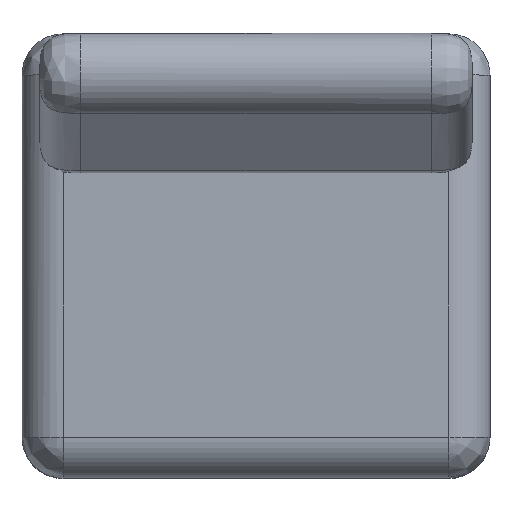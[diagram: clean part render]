
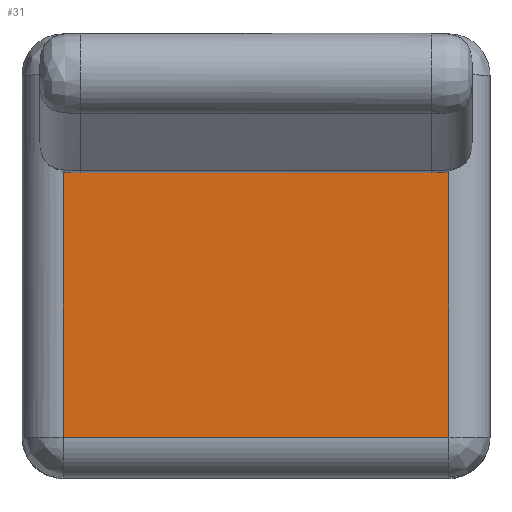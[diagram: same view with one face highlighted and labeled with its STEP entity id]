
A CAD part, top view. The second image highlights one B-rep face of the part: STEP entity #31.
In plain terms, the highlighted free-form (B-spline) face has degree [1, 1] with [2, 2] control points.
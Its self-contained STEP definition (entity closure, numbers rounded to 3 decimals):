
#31=ADVANCED_FACE('',(#83),#1048,.T.);
#83=FACE_OUTER_BOUND('',#135,.T.);
#135=EDGE_LOOP('',(#217,#218,#219,#220));
#217=ORIENTED_EDGE('',*,*,#920,.T.);
#218=ORIENTED_EDGE('',*,*,#921,.T.);
#219=ORIENTED_EDGE('',*,*,#911,.F.);
#220=ORIENTED_EDGE('',*,*,#922,.T.);
#408=PCURVE('',#1077,#612);
#421=PCURVE('',#1048,#625);
#422=PCURVE('',#1048,#626);
#423=PCURVE('',#1048,#627);
#424=PCURVE('',#1048,#628);
#428=PCURVE('',#1081,#632);
#450=PCURVE('',#1084,#654);
#454=PCURVE('',#1085,#658);
#612=DEFINITIONAL_REPRESENTATION('',(#1141),#3726);
#625=DEFINITIONAL_REPRESENTATION('',(#1159),#3726);
#626=DEFINITIONAL_REPRESENTATION('',(#1161),#3726);
#627=DEFINITIONAL_REPRESENTATION('',(#1162),#3726);
#628=DEFINITIONAL_REPRESENTATION('',(#1164),#3726);
#632=DEFINITIONAL_REPRESENTATION('',(#1169),#3726);
#654=DEFINITIONAL_REPRESENTATION('',(#1199),#3726);
#658=DEFINITIONAL_REPRESENTATION('',(#1204),#3726);
#809=SURFACE_CURVE('',#1140,(#408,#423),.PCURVE_S1.);
#818=SURFACE_CURVE('',#1158,(#421,#454),.PCURVE_S1.);
#819=SURFACE_CURVE('',#1160,(#422,#428),.PCURVE_S1.);
#820=SURFACE_CURVE('',#1163,(#424,#450),.PCURVE_S1.);
#911=EDGE_CURVE('',#1006,#991,#809,.T.);
#920=EDGE_CURVE('',#1007,#997,#818,.T.);
#921=EDGE_CURVE('',#997,#991,#819,.T.);
#922=EDGE_CURVE('',#1006,#1007,#820,.T.);
#991=VERTEX_POINT('',#1895);
#997=VERTEX_POINT('',#1901);
#1006=VERTEX_POINT('',#1910);
#1007=VERTEX_POINT('',#1911);
#1048=B_SPLINE_SURFACE_WITH_KNOTS('',1,1,((#1787,#1788),(#1789,#1790)),
 .UNSPECIFIED.,.F.,.F.,.F.,(2,2),(2,2),(-725.,-70.),
(-287.5,327.5),.UNSPECIFIED.);
#1077=(
BOUNDED_SURFACE()
B_SPLINE_SURFACE(3,1,((#1739,#1740),(#1741,#1742),(#1743,#1744),(#1745,
#1746)),.UNSPECIFIED.,.F.,.F.,.F.)
B_SPLINE_SURFACE_WITH_KNOTS((4,4),(2,2),(0.,1.),(0.,1.),.UNSPECIFIED.)
GEOMETRIC_REPRESENTATION_ITEM()
RATIONAL_B_SPLINE_SURFACE(((1.,1.),(0.805,0.805),
(0.805,0.805),(1.,1.)))
REPRESENTATION_ITEM('')
SURFACE()
);
#1081=(
BOUNDED_SURFACE()
B_SPLINE_SURFACE(3,1,((#1791,#1792),(#1793,#1794),(#1795,#1796),(#1797,
#1798)),.UNSPECIFIED.,.F.,.F.,.F.)
B_SPLINE_SURFACE_WITH_KNOTS((4,4),(2,2),(0.,1.),(0.,1.),.UNSPECIFIED.)
GEOMETRIC_REPRESENTATION_ITEM()
RATIONAL_B_SPLINE_SURFACE(((1.,1.),(0.805,0.805),
(0.805,0.805),(1.,1.)))
REPRESENTATION_ITEM('')
SURFACE()
);
#1084=(
BOUNDED_SURFACE()
B_SPLINE_SURFACE(3,1,((#1827,#1828),(#1829,#1830),(#1831,#1832),(#1833,
#1834)),.UNSPECIFIED.,.F.,.F.,.F.)
B_SPLINE_SURFACE_WITH_KNOTS((4,4),(2,2),(0.,1.),(0.,1.),.UNSPECIFIED.)
GEOMETRIC_REPRESENTATION_ITEM()
RATIONAL_B_SPLINE_SURFACE(((1.,1.),(0.805,0.805),
(0.805,0.805),(1.,1.)))
REPRESENTATION_ITEM('')
SURFACE()
);
#1085=(
BOUNDED_SURFACE()
B_SPLINE_SURFACE(3,1,((#1835,#1836),(#1837,#1838),(#1839,#1840),(#1841,
#1842)),.UNSPECIFIED.,.F.,.F.,.F.)
B_SPLINE_SURFACE_WITH_KNOTS((4,4),(2,2),(0.,1.),(0.,1.),.UNSPECIFIED.)
GEOMETRIC_REPRESENTATION_ITEM()
RATIONAL_B_SPLINE_SURFACE(((1.,1.),(0.805,0.805),
(0.805,0.805),(1.,1.)))
REPRESENTATION_ITEM('')
SURFACE()
);
#1140=B_SPLINE_CURVE_WITH_KNOTS('',1,(#2086,#2087),.UNSPECIFIED.,.F.,.F.,
(2,2),(0.,1.),.UNSPECIFIED.);
#1141=B_SPLINE_CURVE_WITH_KNOTS('',1,(#2088,#2089),.UNSPECIFIED.,.F.,.F.,
(2,2),(0.,1.),.UNSPECIFIED.);
#1158=B_SPLINE_CURVE_WITH_KNOTS('',1,(#2161,#2162),.UNSPECIFIED.,.F.,.F.,
(2,2),(0.,1.),.UNSPECIFIED.);
#1159=B_SPLINE_CURVE_WITH_KNOTS('',1,(#2163,#2164),.UNSPECIFIED.,.F.,.F.,
(2,2),(0.,1.),.UNSPECIFIED.);
#1160=B_SPLINE_CURVE_WITH_KNOTS('',1,(#2165,#2166),.UNSPECIFIED.,.F.,.F.,
(2,2),(0.,1.),.UNSPECIFIED.);
#1161=B_SPLINE_CURVE_WITH_KNOTS('',1,(#2167,#2168),.UNSPECIFIED.,.F.,.F.,
(2,2),(0.,1.),.UNSPECIFIED.);
#1162=B_SPLINE_CURVE_WITH_KNOTS('',1,(#2169,#2170),.UNSPECIFIED.,.F.,.F.,
(2,2),(0.,1.),.UNSPECIFIED.);
#1163=B_SPLINE_CURVE_WITH_KNOTS('',1,(#2171,#2172),.UNSPECIFIED.,.F.,.F.,
(2,2),(-1.,0.),.UNSPECIFIED.);
#1164=B_SPLINE_CURVE_WITH_KNOTS('',1,(#2173,#2174),.UNSPECIFIED.,.F.,.F.,
(2,2),(-1.,0.),.UNSPECIFIED.);
#1169=B_SPLINE_CURVE_WITH_KNOTS('',1,(#2277,#2278),.UNSPECIFIED.,.F.,.F.,
(2,2),(0.,1.),.UNSPECIFIED.);
#1199=B_SPLINE_CURVE_WITH_KNOTS('',1,(#2583,#2584),.UNSPECIFIED.,.F.,.F.,
(2,2),(-1.,0.),.UNSPECIFIED.);
#1204=B_SPLINE_CURVE_WITH_KNOTS('',1,(#2651,#2652),.UNSPECIFIED.,.F.,.F.,
(2,2),(0.,1.),.UNSPECIFIED.);
#1739=CARTESIAN_POINT('',(327.5,-287.5,470.));
#1740=CARTESIAN_POINT('',(327.5,327.5,470.));
#1741=CARTESIAN_POINT('',(368.505,-287.5,470.));
#1742=CARTESIAN_POINT('',(368.505,327.5,470.));
#1743=CARTESIAN_POINT('',(397.5,-287.5,441.005));
#1744=CARTESIAN_POINT('',(397.5,327.5,441.005));
#1745=CARTESIAN_POINT('',(397.5,-287.5,400.));
#1746=CARTESIAN_POINT('',(397.5,327.5,400.));
#1787=CARTESIAN_POINT('',(-327.5,-287.5,470.));
#1788=CARTESIAN_POINT('',(-327.5,327.5,470.));
#1789=CARTESIAN_POINT('',(327.5,-287.5,470.));
#1790=CARTESIAN_POINT('',(327.5,327.5,470.));
#1791=CARTESIAN_POINT('',(327.5,-357.5,400.));
#1792=CARTESIAN_POINT('',(-327.5,-357.5,400.));
#1793=CARTESIAN_POINT('',(327.5,-355.088,444.102));
#1794=CARTESIAN_POINT('',(-327.5,-355.088,444.102));
#1795=CARTESIAN_POINT('',(327.5,-331.602,467.588));
#1796=CARTESIAN_POINT('',(-327.5,-331.602,467.588));
#1797=CARTESIAN_POINT('',(327.5,-287.5,470.));
#1798=CARTESIAN_POINT('',(-327.5,-287.5,470.));
#1827=CARTESIAN_POINT('',(327.5,327.5,470.));
#1828=CARTESIAN_POINT('',(-327.5,327.5,470.));
#1829=CARTESIAN_POINT('',(327.5,371.602,467.588));
#1830=CARTESIAN_POINT('',(-327.5,371.602,467.588));
#1831=CARTESIAN_POINT('',(327.5,395.088,444.102));
#1832=CARTESIAN_POINT('',(-327.5,395.088,444.102));
#1833=CARTESIAN_POINT('',(327.5,397.5,400.));
#1834=CARTESIAN_POINT('',(-327.5,397.5,400.));
#1835=CARTESIAN_POINT('',(-327.5,327.5,470.));
#1836=CARTESIAN_POINT('',(-327.5,-287.5,470.));
#1837=CARTESIAN_POINT('',(-368.505,327.5,470.));
#1838=CARTESIAN_POINT('',(-368.505,-287.5,470.));
#1839=CARTESIAN_POINT('',(-397.5,327.5,441.005));
#1840=CARTESIAN_POINT('',(-397.5,-287.5,441.005));
#1841=CARTESIAN_POINT('',(-397.5,327.5,400.));
#1842=CARTESIAN_POINT('',(-397.5,-287.5,400.));
#1895=CARTESIAN_POINT('',(327.5,-287.5,470.));
#1901=CARTESIAN_POINT('',(-327.5,-287.5,470.));
#1910=CARTESIAN_POINT('',(327.5,327.5,470.));
#1911=CARTESIAN_POINT('',(-327.5,327.5,470.));
#2086=CARTESIAN_POINT('',(327.5,327.5,470.));
#2087=CARTESIAN_POINT('',(327.5,-287.5,470.));
#2088=CARTESIAN_POINT('',(0.,1.));
#2089=CARTESIAN_POINT('',(0.,0.));
#2161=CARTESIAN_POINT('',(-327.5,327.5,470.));
#2162=CARTESIAN_POINT('',(-327.5,-287.5,470.));
#2163=CARTESIAN_POINT('',(-725.,327.5));
#2164=CARTESIAN_POINT('',(-725.,-287.5));
#2165=CARTESIAN_POINT('',(-327.5,-287.5,470.));
#2166=CARTESIAN_POINT('',(327.5,-287.5,470.));
#2167=CARTESIAN_POINT('',(-725.,-287.5));
#2168=CARTESIAN_POINT('',(-70.,-287.5));
#2169=CARTESIAN_POINT('',(-70.,327.5));
#2170=CARTESIAN_POINT('',(-70.,-287.5));
#2171=CARTESIAN_POINT('',(327.5,327.5,470.));
#2172=CARTESIAN_POINT('',(-327.5,327.5,470.));
#2173=CARTESIAN_POINT('',(-70.,327.5));
#2174=CARTESIAN_POINT('',(-725.,327.5));
#2277=CARTESIAN_POINT('',(1.,1.));
#2278=CARTESIAN_POINT('',(1.,0.));
#2583=CARTESIAN_POINT('',(0.,0.));
#2584=CARTESIAN_POINT('',(0.,1.));
#2651=CARTESIAN_POINT('',(0.,0.));
#2652=CARTESIAN_POINT('',(0.,1.));
#3726=(
GEOMETRIC_REPRESENTATION_CONTEXT(2)
PARAMETRIC_REPRESENTATION_CONTEXT()
REPRESENTATION_CONTEXT('pspace','')
);
